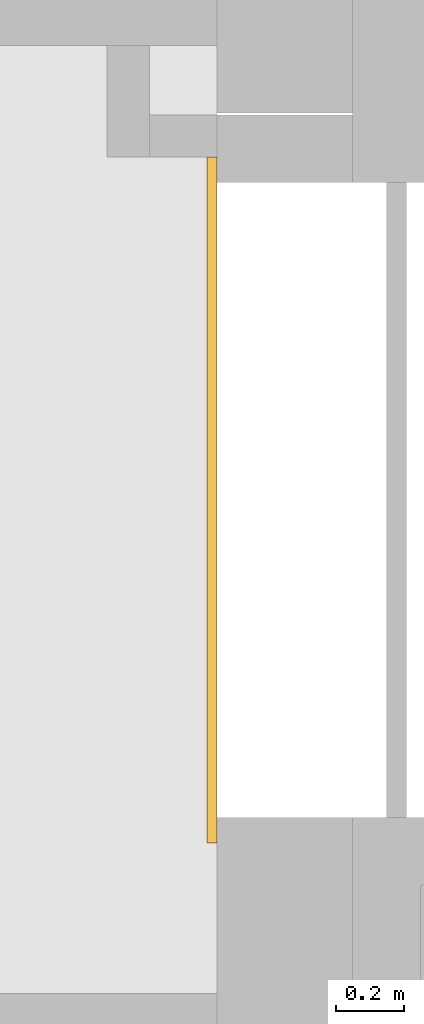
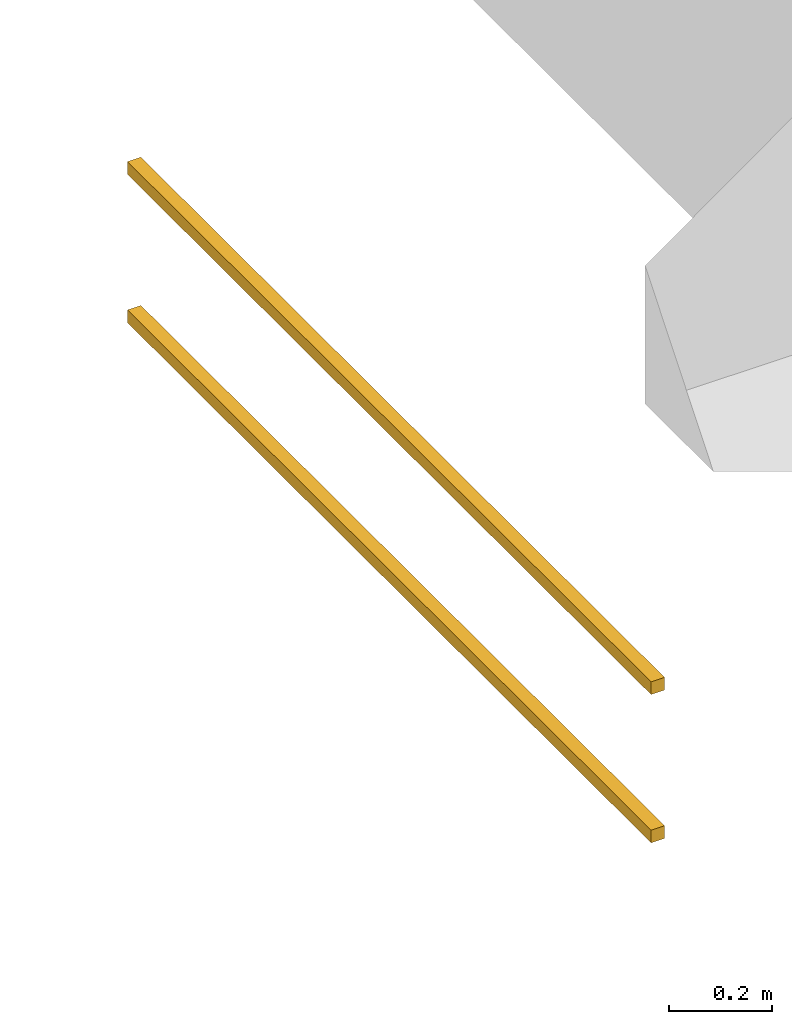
# One storey, part 25 of 27: 1 railing.
"""IFC4 building model written with IfcOpenShell, lengths in metres."""

from ifc_helpers import new_model, entity, si_unit, converted_unit, derived_unit, frame, origin, place, context, subcontext, project, spatial, faceted_brep, material, element, save


model = new_model("IFC4")

# Units and contexts
model_context = context("Model", 3, precision=1e-05, world=origin())
body_context = subcontext(model_context, "Body", "Model", "MODEL_VIEW")
ifc_project = project(units=[si_unit("LENGTHUNIT", "METRE"), si_unit("AREAUNIT", "SQUARE_METRE"), si_unit("VOLUMEUNIT", "CUBIC_METRE"), si_unit("MASSUNIT", "GRAM", prefix="KILO"), converted_unit("PLANEANGLEUNIT", "DEGREE", entity("IfcPlaneAngleMeasure", 0.0174532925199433), si_unit("PLANEANGLEUNIT", "RADIAN"), dimensions=[0, 0, 0, 0, 0, 0, 0]), derived_unit("THERMALTRANSMITTANCEUNIT", [(si_unit("POWERUNIT", "WATT"), 1), (si_unit("THERMODYNAMICTEMPERATUREUNIT", "KELVIN"), -1), (si_unit("LENGTHUNIT", "METRE"), -2)]), derived_unit("VOLUMETRICFLOWRATEUNIT", [(si_unit("LENGTHUNIT", "METRE"), 3), (converted_unit("TIMEUNIT", "hour", entity("IfcTimeMeasure", 3600.0), si_unit("TIMEUNIT", "SECOND"), dimensions=[0, 0, 1, 0, 0, 0, 0]), -1), (si_unit("LENGTHUNIT", "METRE"), -1)])], contexts=[model_context])

# Site, building, storey
site_placement = place(None, origin())
site = spatial("IfcSite", under=ifc_project, at=site_placement, Name="3. ASŘ", CompositionType="ELEMENT")
building_placement = place(site_placement, origin())
building = spatial("IfcBuilding", under=site, at=building_placement, Name="Pavilon C", CompositionType="ELEMENT")
storey_placement = place(building_placement, frame((0.0, 0.0, 7.2)))
storey = spatial("IfcBuildingStorey", under=building, at=storey_placement, Name="Půdorys 3.NP", CompositionType="ELEMENT", Elevation=7.2)

# Railing
ifc_material = material(Name="TiZn")
railing_placement = place(storey_placement, frame((48.12, 29.945, -1.08)))
element("IfcRailing", 1, at=railing_placement, inside=storey, material=ifc_material, Name="Rail_Path", PredefinedType="USERDEFINED", context=body_context, shape_type="Brep", body=[
    faceted_brep([(0.03, 2.025, 0.38), (0.0, 2.025, 0.38), (0.0, 2.025, 0.35), (0.03, 2.025, 0.35), (0.03, 0.0, 0.38), (0.03, 0.0, 0.35), (0.0, 0.0, 0.35), (0.0, 0.0, 0.38)], [[[0, 1, 2, 3]], [[4, 5, 6, 7]], [[0, 4, 7, 1]], [[1, 7, 6, 2]], [[2, 6, 5, 3]], [[3, 5, 4, 0]]], orient=[[False], [False], [False], [False], [False], [False]]),
    faceted_brep([(0.03, 2.025, 0.03), (0.0, 2.025, 0.03), (0.0, 2.025, 0.0), (0.03, 2.025, 0.0), (0.03, 0.0, 0.03), (0.03, 0.0, 0.0), (0.0, 0.0, 0.0), (0.0, 0.0, 0.03)], [[[0, 1, 2, 3]], [[4, 5, 6, 7]], [[0, 4, 7, 1]], [[1, 7, 6, 2]], [[2, 6, 5, 3]], [[3, 5, 4, 0]]], orient=[[False], [False], [False], [False], [False], [False]]),
])

save(model, "model.ifc")
